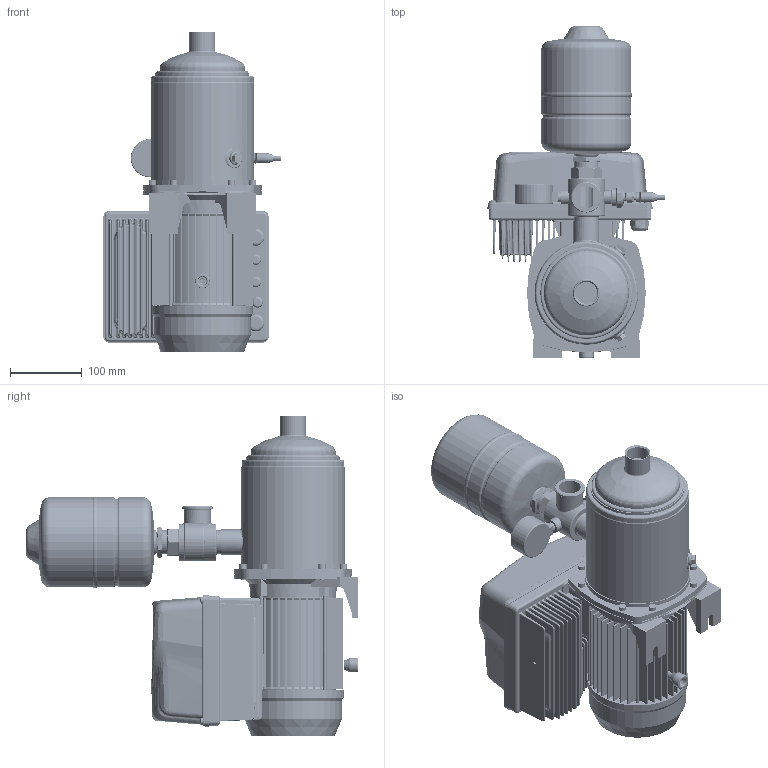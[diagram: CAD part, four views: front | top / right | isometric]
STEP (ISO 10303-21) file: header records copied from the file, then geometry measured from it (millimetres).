
FILE_DESCRIPTION((''),'2;1');
FILE_NAME('1GPE_MATRIX_3-6T_0-9_ESPM_ASM','2024-12-02T12:21:08',('Utente'),('"Ebara Pumps Europe S.p.A"'),'CREO PARAMETRIC BY PTC INC, 2022124','CREO PARAMETRIC BY PTC INC, 2022124','');
FILE_SCHEMA(('AUTOMOTIVE_DESIGN { 1 0 10303 214 1 1 1 1 }'));
Length unit declared in the file: millimetre
Products named in the file (14): EP_MATRIX_3-6T_0-9_IE3; EP_MATRIX_3-6T_0-9_ASM; ADATTATORE_E-SPD_MEC71; E-SPD_ADATTATORE_MEC71_ASM; BACK_E-SPD_PLUS_2200-4000; COVER_E-SPD_PLUS_2200-4000; COM_E-SPDM_MEC80-90-100_ORIZ_ASM; RACC_5_VIE_NR_1_A304; TRASD_ASHCROFT_M12_GEN; CABLE_M12_FEMALE; TRASD_ASHCROFT_10B_MP_362331051_ASM; MAN_RAD_D50_10BAR_361600160; VASO_ESPANSIONE_2L_GWS; 1GPE_MATRIX_3-6T_0-9_ESPM_ASM
Assembly tree (13 placements, depth 3):
  1GPE_MATRIX_3-6T_0-9_ESPM_ASM
    EP_MATRIX_3-6T_0-9_ASM
      EP_MATRIX_3-6T_0-9_IE3
    E-SPD_ADATTATORE_MEC71_ASM
      ADATTATORE_E-SPD_MEC71
    COM_E-SPDM_MEC80-90-100_ORIZ_ASM
      BACK_E-SPD_PLUS_2200-4000
      COVER_E-SPD_PLUS_2200-4000
    RACC_5_VIE_NR_1_A304
    TRASD_ASHCROFT_10B_MP_362331051_ASM
      TRASD_ASHCROFT_M12_GEN
      CABLE_M12_FEMALE
    MAN_RAD_D50_10BAR_361600160
    VASO_ESPANSIONE_2L_GWS
Bounding box: 246.19 x 461.11 x 443.8 mm (x, y, z)
Volume: 4452675.7 mm3; surface area: 1295221.8 mm2
Topology: 92 solids, 512 shells, 11949 faces, 30394 edges, 18056 vertices
Faces by surface type: plane 6025, cylinder 2610, sphere 1037, bspline 946, cone 492, extrusion 435, torus 404
Entity records: 485135 total; most frequent: CARTESIAN_POINT 172734, ORIENTED_EDGE 55973, DIRECTION 53100, EDGE_CURVE 28927, VERTEX_POINT 17936, VECTOR 17886, AXIS2_PLACEMENT_3D 17588, LINE 17451
